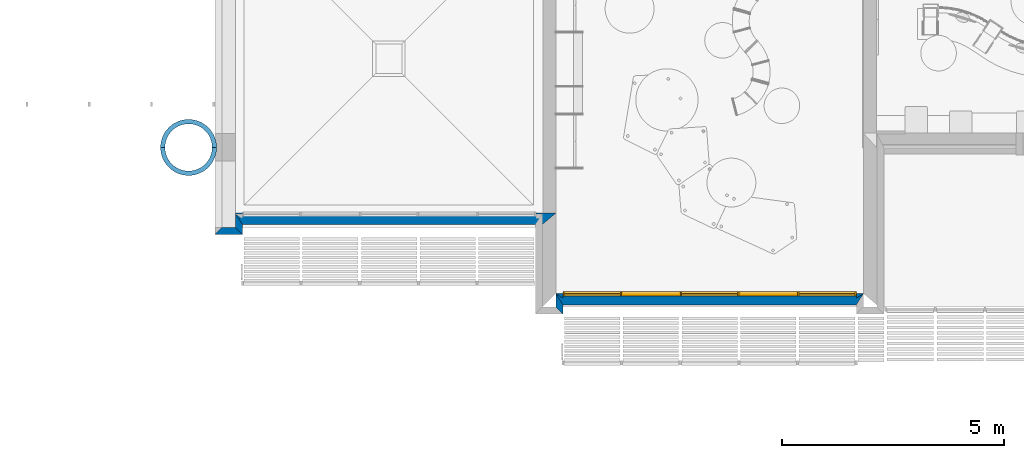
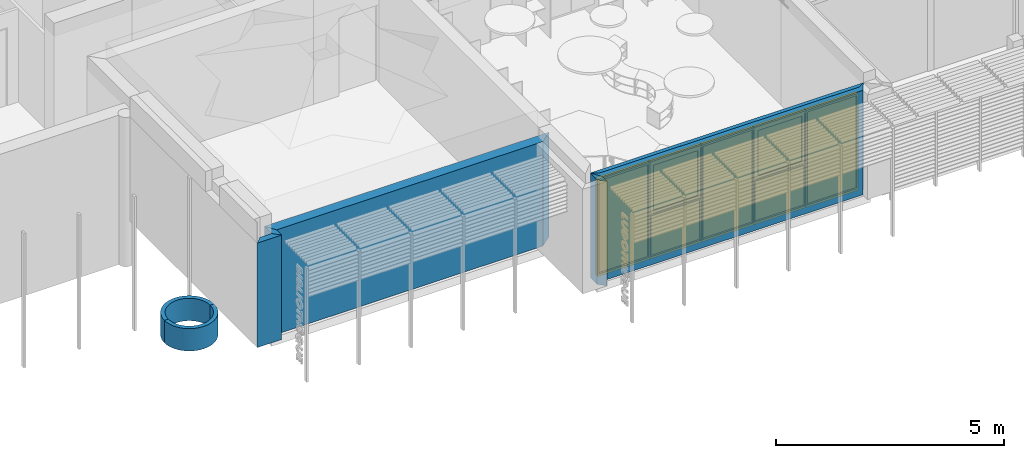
# One storey, part 19 of 64: 8 walls, 5 windows, 5 openings.
"""IFC2X3 building model written with IfcOpenShell, lengths in metres."""

from ifc_helpers import new_model, entity, si_unit, converted_unit, derived_unit, direction, frame, frame_2d, origin, place, context, subcontext, project, spatial, polyline, circle_curve, parameter, trimmed, segment, composite_curve, rectangle, outline, extrude, faceted_brep, source, transform, mapped, material, material_list, layer, layer_set, layer_usage, type_object, type_shapes, element, fill, save


model = new_model("IFC2X3")

# Units and contexts
model_context = context("Model", 3, precision=1e-05, world=origin(), true_north=direction((6.123031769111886e-17, 1.0)))
body_context = subcontext(model_context, "Body", "Model", "MODEL_VIEW")
ifc_project = project(units=[si_unit("LENGTHUNIT", "METRE"), si_unit("AREAUNIT", "SQUARE_METRE"), si_unit("VOLUMEUNIT", "CUBIC_METRE"), converted_unit("PLANEANGLEUNIT", "DEGREE", entity("IfcRatioMeasure", 0.017453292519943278), si_unit("PLANEANGLEUNIT", "RADIAN"), dimensions=[0, 0, 0, 0, 0, 0, 0]), si_unit("MASSUNIT", "GRAM", prefix="KILO"), derived_unit("MASSDENSITYUNIT", [(si_unit("MASSUNIT", "GRAM", prefix="KILO"), 1), (si_unit("LENGTHUNIT", "METRE"), -3)]), derived_unit("MOMENTOFINERTIAUNIT", [(si_unit("LENGTHUNIT", "METRE"), 4)]), si_unit("TIMEUNIT", "SECOND"), si_unit("FREQUENCYUNIT", "HERTZ"), si_unit("THERMODYNAMICTEMPERATUREUNIT", "DEGREE_CELSIUS"), derived_unit("THERMALTRANSMITTANCEUNIT", [(si_unit("MASSUNIT", "GRAM", prefix="KILO"), 1), (si_unit("THERMODYNAMICTEMPERATUREUNIT", "KELVIN"), -1), (si_unit("TIMEUNIT", "SECOND"), -3)]), derived_unit("THERMALCONDUCTANCEUNIT", [(si_unit("MASSUNIT", "GRAM", prefix="KILO"), 1), (si_unit("LENGTHUNIT", "METRE"), 1), (si_unit("THERMODYNAMICTEMPERATUREUNIT", "KELVIN"), -1), (si_unit("TIMEUNIT", "SECOND"), -3)]), derived_unit("VOLUMETRICFLOWRATEUNIT", [(si_unit("LENGTHUNIT", "METRE"), 3), (si_unit("TIMEUNIT", "SECOND"), -1)]), derived_unit("MASSFLOWRATEUNIT", [(si_unit("MASSUNIT", "GRAM", prefix="KILO"), 1), (si_unit("TIMEUNIT", "SECOND"), -1)]), derived_unit("ROTATIONALFREQUENCYUNIT", [(si_unit("TIMEUNIT", "SECOND"), -1)]), si_unit("ELECTRICCURRENTUNIT", "AMPERE"), si_unit("ELECTRICVOLTAGEUNIT", "VOLT"), si_unit("POWERUNIT", "WATT"), si_unit("FORCEUNIT", "NEWTON", prefix="KILO"), si_unit("ILLUMINANCEUNIT", "LUX"), si_unit("LUMINOUSFLUXUNIT", "LUMEN"), si_unit("LUMINOUSINTENSITYUNIT", "CANDELA"), derived_unit("USERDEFINED", [(si_unit("MASSUNIT", "GRAM", prefix="KILO"), -1), (si_unit("LENGTHUNIT", "METRE"), -2), (si_unit("TIMEUNIT", "SECOND"), 3), (si_unit("LUMINOUSFLUXUNIT", "LUMEN"), 1)]), derived_unit("USERDEFINED", [(si_unit("MASSUNIT", "GRAM", prefix="KILO"), 1), (si_unit("LENGTHUNIT", "METRE"), 3), (si_unit("TIMEUNIT", "SECOND"), -3), (si_unit("ELECTRICCURRENTUNIT", "AMPERE"), -2)]), derived_unit("USERDEFINED", [(si_unit("LENGTHUNIT", "METRE"), 2), (si_unit("TIMEUNIT", "SECOND"), -2)]), derived_unit("SOUNDPOWERUNIT", [(si_unit("MASSUNIT", "GRAM", prefix="KILO"), 1), (si_unit("LENGTHUNIT", "METRE"), 2), (si_unit("TIMEUNIT", "SECOND"), -3)]), derived_unit("SOUNDPRESSUREUNIT", [(si_unit("MASSUNIT", "GRAM", prefix="KILO"), 1), (si_unit("LENGTHUNIT", "METRE"), -1), (si_unit("TIMEUNIT", "SECOND"), -2)]), derived_unit("LINEARVELOCITYUNIT", [(si_unit("LENGTHUNIT", "METRE"), 1), (si_unit("TIMEUNIT", "SECOND"), -1)]), si_unit("PRESSUREUNIT", "PASCAL"), derived_unit("USERDEFINED", [(si_unit("LENGTHUNIT", "METRE"), -2), (si_unit("MASSUNIT", "GRAM", prefix="KILO"), 1), (si_unit("TIMEUNIT", "SECOND"), -2)]), derived_unit("LINEARFORCEUNIT", [(si_unit("MASSUNIT", "GRAM", prefix="KILO"), 1), (si_unit("LENGTHUNIT", "METRE"), 1), (si_unit("TIMEUNIT", "SECOND"), -2), (si_unit("LENGTHUNIT", "METRE"), -1)]), derived_unit("PLANARFORCEUNIT", [(si_unit("MASSUNIT", "GRAM", prefix="KILO"), 1), (si_unit("LENGTHUNIT", "METRE"), 1), (si_unit("TIMEUNIT", "SECOND"), -2), (si_unit("LENGTHUNIT", "METRE"), -2)]), derived_unit("SPECIFICHEATCAPACITYUNIT", [(si_unit("LENGTHUNIT", "METRE"), 2), (si_unit("TIMEUNIT", "SECOND"), -2), (si_unit("THERMODYNAMICTEMPERATUREUNIT", "KELVIN"), -1)]), derived_unit("VAPORPERMEABILITYUNIT", [(si_unit("TIMEUNIT", "SECOND"), 1), (si_unit("LENGTHUNIT", "METRE"), -1)]), derived_unit("DYNAMICVISCOSITYUNIT", [(si_unit("MASSUNIT", "GRAM", prefix="KILO"), 1), (si_unit("LENGTHUNIT", "METRE"), -1), (si_unit("TIMEUNIT", "SECOND"), -1)]), derived_unit("THERMALEXPANSIONCOEFFICIENTUNIT", [(si_unit("THERMODYNAMICTEMPERATUREUNIT", "KELVIN"), -1)])], contexts=[model_context])

# Site, building, storey
site_placement = place(None, origin())
site = spatial("IfcSite", under=ifc_project, at=site_placement, Name="Default", CompositionType="ELEMENT")
building_placement = place(site_placement, origin())
building = spatial("IfcBuilding", under=site, at=building_placement, CompositionType="ELEMENT")
storey_placement = place(building_placement, origin())
storey = spatial("IfcBuildingStorey", under=building, at=storey_placement, Name="REZ-DE-CHAUSSÉE", CompositionType="ELEMENT", Elevation=0.0)

# Walls
ifc_material_1 = material(Name="Enduit - Jaune nature")
ifc_layer_1 = layer(ifc_material_1, 0.02)
ifc_material_2 = material(Name="Isolation - Fibre de verre")
ifc_layer_2 = layer(ifc_material_2, 0.14)
ifc_layer_set_1 = layer_set([ifc_layer_1, ifc_layer_2], Name="Mur de base:ABA ITE 140 + enduit 160")
ifc_layer_usage_1 = layer_usage(ifc_layer_set_1, "AXIS2", "NEGATIVE", 0.08)
wall_type_1 = type_object("IfcWallType", Name="Mur de base:ABA ITE 140 + enduit 160", PredefinedType="STANDARD", material=ifc_layer_set_1)
wall_1_placement = place(storey_placement, frame((103.12075228, 5.87720948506, 0.0), z_axis=(0.0, 0.0, 1.0), x_axis=(-1.0, 0.0, 0.0)))
element("IfcWallStandardCase", 1, at=wall_1_placement, inside=storey, type_object=wall_type_1, material=ifc_layer_usage_1, Name="MurExt-018", ObjectType="Mur de base:ABA ITE 140 + enduit 160", context=body_context, shape_type="SweptSolid", body=[
    extrude(outline(polyline([(0.46000000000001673, -0.08000000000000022), (0.620000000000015, 0.08000000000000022), (0.0, 0.08000000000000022), (0.15999999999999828, -0.08000000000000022), (0.46000000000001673, -0.08000000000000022)])), origin(), (0.0, 0.0, 1.0), 2.8),
])
wall_2_placement = place(storey_placement, frame((103.04075228, 6.277209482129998, 0.0), z_axis=(0.0, 0.0, 1.0), x_axis=(0.0, -1.0, 0.0)))
element("IfcWallStandardCase", 2, at=wall_2_placement, inside=storey, type_object=wall_type_1, material=ifc_layer_usage_1, Name="MurExt-017", ObjectType="Mur de base:ABA ITE 140 + enduit 160", context=body_context, shape_type="SweptSolid", body=[
    extrude(outline(polyline([(0.3199999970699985, -0.07999999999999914), (0.47999999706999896, 0.07999999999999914), (0.24999999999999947, 0.07999999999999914), (0.0, -0.07999999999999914), (0.3199999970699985, -0.07999999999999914)])), origin(), (0.0, 0.0, 1.0), 2.8),
])
wall_3_placement = place(storey_placement, frame((110.25075228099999, 4.4672094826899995, 0.0), z_axis=(0.0, 0.0, 1.0), x_axis=(0.0, -1.0, 0.0)))
element("IfcWallStandardCase", 3, at=wall_3_placement, inside=storey, type_object=wall_type_1, material=ifc_layer_usage_1, Name="MurExt-015", ObjectType="Mur de base:ABA ITE 140 + enduit 160", context=body_context, shape_type="SweptSolid", body=[
    extrude(outline(polyline([(0.2999999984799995, -0.07999999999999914), (0.4599999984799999, 0.07999999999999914), (0.24999999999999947, 0.07999999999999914), (0.0, -0.07999999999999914), (0.2999999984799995, -0.07999999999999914)])), origin(), (0.0, 0.0, 1.0), 2.8),
])
ifc_material_3 = material(Name="Bois - Pin granuleux horizontal")
ifc_layer_3 = layer(ifc_material_3, 0.031999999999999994)
ifc_material_4 = material(Name="Air - Vide d'air")
ifc_layer_4 = layer(ifc_material_4, 0.041)
ifc_material_5 = material(Name="Bois - Panneaux de particules")
ifc_layer_5 = layer(ifc_material_5, 0.022)
ifc_layer_6 = layer(ifc_material_2, 0.12)
ifc_layer_7 = layer(ifc_material_5, 0.022)
ifc_material_6 = material(Name="Plâtre - Plaques de plâtre")
ifc_layer_8 = layer(ifc_material_6, 0.013)
ifc_layer_set_2 = layer_set([ifc_layer_3, ifc_layer_4, ifc_layer_5, ifc_layer_6, ifc_layer_7, ifc_layer_8], Name="Mur de base:ABA MOB bardage 250")
ifc_layer_usage_2 = layer_usage(ifc_layer_set_2, "AXIS2", "NEGATIVE", 0.12499999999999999)
wall_type_2 = type_object("IfcWallType", Name="Mur de base:ABA MOB bardage 250", PredefinedType="STANDARD", material=ifc_layer_set_2)
wall_4_placement = place(storey_placement, frame((117.09075228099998, 4.3422094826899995, 0.0), z_axis=(0.0, 0.0, 1.0), x_axis=(-1.0, 0.0, 0.0)))
element("IfcWallStandardCase", 4, at=wall_4_placement, inside=storey, type_object=wall_type_2, material=ifc_layer_usage_2, Name="MurExt-003", ObjectType="Mur de base:ABA MOB bardage 250", context=body_context, shape_type="SweptSolid", body=[
    extrude(outline(polyline([(6.919999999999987, -0.12500000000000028), (6.759999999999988, 0.12499999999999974), (0.15999999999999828, 0.12499999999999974), (0.0, -0.12500000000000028), (6.919999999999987, -0.12500000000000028)])), origin(), (0.0, 0.0, 1.0), 2.8),
])
wall_5_placement = place(storey_placement, frame((110.17075228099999, 6.152209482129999, 0.0), z_axis=(0.0, 0.0, 1.0), x_axis=(-1.0, 0.0, 0.0)))
element("IfcWallStandardCase", 5, at=wall_5_placement, inside=storey, type_object=wall_type_2, material=ifc_layer_usage_2, Name="MurExt-004", ObjectType="Mur de base:ABA MOB bardage 250", context=body_context, shape_type="SweptSolid", body=[
    extrude(outline(polyline([(7.210000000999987, -0.12499999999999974), (7.050000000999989, 0.12499999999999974), (0.3000000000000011, 0.12499999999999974), (0.0, -0.12499999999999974), (0.29000000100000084, -0.12499999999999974), (7.210000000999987, -0.12499999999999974)])), origin(), (0.0, 0.0, 1.0), 2.8),
])
ifc_material_7 = material(Name="Appareillage - Pierre taillé")
ifc_layer_9 = layer(ifc_material_7, 0.0992125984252)
ifc_layer_set_3 = layer_set([ifc_layer_9], Name="Mur de base:Struct. - Pierre 99")
ifc_layer_usage_3 = layer_usage(ifc_layer_set_3, "AXIS2", "POSITIVE", -0.0496062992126)
wall_type_3 = type_object("IfcWallType", Name="Mur de base:Struct. - Pierre 99", PredefinedType="STANDARD", material=ifc_layer_set_3)
wall_6_placement = place(storey_placement, frame((102.49114598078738, 7.757209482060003, -0.63), z_axis=(0.0, 0.0, 1.0), x_axis=(-1.0, 0.0, 0.0)))
element("IfcWallStandardCase", 6, at=wall_6_placement, inside=storey, type_object=wall_type_3, material=ifc_layer_usage_3, Name="MurExt-004", ObjectType="Mur de base:Struct. - Pierre 99", context=body_context, shape_type="SweptSolid", body=[
    extrude(outline(composite_curve([segment(trimmed(circle_curve(frame_2d((0.580393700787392, 0.0), x_axis=(1.0, 0.0)), 0.63), [parameter(0.0)], [parameter(180.00000000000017)], True, "PARAMETER"), True, "CONTINUOUS"), segment(polyline([(-0.049606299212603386, 0.0), (0.04960629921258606, 0.0)]), True, "CONTINUOUS"), segment(trimmed(circle_curve(frame_2d((0.580393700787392, 0.0), x_axis=(1.0, 0.0)), 0.5307874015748), [parameter(0.0)], [parameter(180.00000000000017)], True, "PARAMETER"), False, "CONTINUOUS"), segment(polyline([(1.111181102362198, 0.0), (1.2103937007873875, 0.0)]), True, "CONTINUOUS")], self_intersect=False)), origin(), (0.0, 0.0, 1.0), 0.5999999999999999),
])
wall_7_placement = place(storey_placement, frame((101.33035857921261, 7.757209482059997, -0.63)))
element("IfcWallStandardCase", 7, at=wall_7_placement, inside=storey, type_object=wall_type_3, material=ifc_layer_usage_3, Name="MurExt-003", ObjectType="Mur de base:Struct. - Pierre 99", context=body_context, shape_type="SweptSolid", body=[
    extrude(outline(composite_curve([segment(trimmed(circle_curve(frame_2d((0.580393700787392, 0.0), x_axis=(1.0, 0.0)), 0.63), [parameter(0.0)], [parameter(180.00000000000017)], True, "PARAMETER"), True, "CONTINUOUS"), segment(polyline([(-0.049606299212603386, 0.0), (0.04960629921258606, 0.0)]), True, "CONTINUOUS"), segment(trimmed(circle_curve(frame_2d((0.580393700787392, 0.0), x_axis=(1.0, 0.0)), 0.5307874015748), [parameter(0.0)], [parameter(180.00000000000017)], True, "PARAMETER"), False, "CONTINUOUS"), segment(polyline([(1.111181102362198, 0.0), (1.2103937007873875, 0.0)]), True, "CONTINUOUS")], self_intersect=False)), origin(), (0.0, 0.0, 1.0), 0.5999999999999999),
])

# Wall, openings, windows
ifc_layer_10 = layer(ifc_material_2, 0.1)
ifc_layer_set_4 = layer_set([ifc_layer_10], Name="Mur de base:Isolation - Laine de verre 100")
ifc_layer_usage_4 = layer_usage(ifc_layer_set_4, "AXIS2", "NEGATIVE", 0.05)
wall_type_4 = type_object("IfcWallType", Name="Mur de base:Isolation - Laine de verre 100", PredefinedType="STANDARD", material=ifc_layer_set_4)
wall_8_placement = place(storey_placement, frame((117.09075228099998, 4.41720948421, 0.0), z_axis=(0.0, 0.0, 1.0), x_axis=(-1.0, 0.0, 0.0)))
wall_8 = element("IfcWallStandardCase", 8, at=wall_8_placement, inside=storey, type_object=wall_type_4, material=ifc_layer_usage_4, Name="MurExt-027", ObjectType="Mur de base:Isolation - Laine de verre 100", context=body_context, shape_type="SweptSolid", body=[
    extrude(outline(polyline([(0.0, -0.05), (6.919999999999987, -0.05), (6.759999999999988, 0.05), (0.15999999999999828, 0.05), (0.0, -0.05)])), origin(), (0.0, 0.0, 1.0), 2.8),
])
opening_1_placement = place(wall_8_placement, frame((117.09075228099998, 4.41720948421, 0.0), z_axis=(0.0, 0.0, 1.0), x_axis=(-1.0, 0.0, 0.0)))
opening_1 = element("IfcOpeningElement", 9, at=opening_1_placement, cuts=wall_8, Name="MurExt-027", ObjectType="Opening", context=body_context, shape_type="SweptSolid", body=[
    extrude(rectangle(XDim=2.6, YDim=1.3199999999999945, at=frame_2d((0.0, 8.659739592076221e-15), x_axis=(1.0, 0.0))), frame((113.63075228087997, 4.518209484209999, 1.3), z_axis=(0.0, -1.0, 0.0), x_axis=(0.0, 0.0, -1.0)), (0.0, 0.0, 1.0), 0.20199999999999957),
])
opening_2_placement = place(wall_8_placement, frame((117.09075228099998, 4.41720948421, 0.0), z_axis=(0.0, 0.0, 1.0), x_axis=(-1.0, 0.0, 0.0)))
opening_2 = element("IfcOpeningElement", 10, at=opening_2_placement, cuts=wall_8, Name="MurExt-027", ObjectType="Opening", context=body_context, shape_type="SweptSolid", body=[
    extrude(rectangle(XDim=2.6, YDim=1.3199999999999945, at=frame_2d((8.659739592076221e-15, 0.0), x_axis=(0.0, 1.0))), frame((114.95075228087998, 4.518209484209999, 1.3), z_axis=(0.0, -1.0, 0.0), x_axis=(1.0, 0.0, 0.0)), (0.0, 0.0, 1.0), 0.20199999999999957),
])
opening_3_placement = place(wall_8_placement, frame((117.09075228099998, 4.41720948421, 0.0), z_axis=(0.0, 0.0, 1.0), x_axis=(-1.0, 0.0, 0.0)))
opening_3 = element("IfcOpeningElement", 11, at=opening_3_placement, cuts=wall_8, Name="MurExt-027", ObjectType="Opening", context=body_context, shape_type="SweptSolid", body=[
    extrude(rectangle(XDim=2.6, YDim=1.3199999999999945, at=frame_2d((0.0, 8.659739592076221e-15), x_axis=(1.0, 0.0))), frame((116.27075228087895, 4.518209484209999, 1.3), z_axis=(0.0, -1.0, 0.0), x_axis=(0.0, 0.0, -1.0)), (0.0, 0.0, 1.0), 0.20199999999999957),
])
opening_4_placement = place(wall_8_placement, frame((117.09075228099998, 4.41720948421, 0.0), z_axis=(0.0, 0.0, 1.0), x_axis=(-1.0, 0.0, 0.0)))
opening_4 = element("IfcOpeningElement", 12, at=opening_4_placement, cuts=wall_8, Name="MurExt-027", ObjectType="Opening", context=body_context, shape_type="SweptSolid", body=[
    extrude(rectangle(XDim=2.6, YDim=1.3199999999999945, at=frame_2d((0.0, 8.659739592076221e-15), x_axis=(1.0, 0.0))), frame((112.31075228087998, 4.518209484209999, 1.3), z_axis=(0.0, -1.0, 0.0), x_axis=(0.0, 0.0, -1.0)), (0.0, 0.0, 1.0), 0.20199999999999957),
])
opening_5_placement = place(wall_8_placement, frame((117.09075228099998, 4.41720948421, 0.0), z_axis=(0.0, 0.0, 1.0), x_axis=(-1.0, 0.0, 0.0)))
opening_5 = element("IfcOpeningElement", 13, at=opening_5_placement, cuts=wall_8, Name="MurExt-027", ObjectType="Opening", context=body_context, shape_type="SweptSolid", body=[
    extrude(rectangle(XDim=2.6, YDim=1.3199999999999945, at=frame_2d((-8.659739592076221e-15, 0.0), x_axis=(0.0, 1.0))), frame((110.99075228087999, 4.518209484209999, 1.3), z_axis=(0.0, -1.0, 0.0), x_axis=(1.0, 0.0, 0.0)), (0.0, 0.0, 1.0), 0.20199999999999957),
])
ifc_material_8 = material(Name="Transp. - Verre clair (rapide)")
ifc_material_9 = material(Name="Peinture - Anthracite")
ifc_material_list = material_list([ifc_material_8, ifc_material_9])
window_style_1 = type_object("IfcWindowStyle", Name="Fen-004", ConstructionType="NOTDEFINED", OperationType="NOTDEFINED", ParameterTakesPrecedence=False, Sizeable=False, material=ifc_material_list)
shared_shape_1 = source(origin(), body_context, "Body", "SweptSolid", [
    extrude(rectangle(XDim=1.26, YDim=0.010000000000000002, at=frame_2d((0.0, -4.336808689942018e-18), x_axis=(1.0, 0.0))), frame((0.6600000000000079, -0.15099999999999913, 0.0601)), (0.0, 0.0, 1.0), 2.4899),
    extrude(outline(polyline([(-1.3, -0.6599999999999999), (1.3, -0.6599999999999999), (1.3, 0.6599999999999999), (-1.3, 0.6599999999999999), (-1.3, -0.6599999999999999)]), holes=[polyline([(1.2400000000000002, 0.63), (1.2400000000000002, -0.63), (-1.2499999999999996, -0.63), (-1.2499999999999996, 0.63), (1.2400000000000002, 0.63)])]), frame((0.6600000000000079, -0.20099999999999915, 1.3), z_axis=(0.0, 1.0, 0.0), x_axis=(0.0, 0.0, -1.0)), (0.0, 0.0, 1.0), 0.1),
])
type_shapes(window_style_1, [shared_shape_1])
window_1_placement = place(opening_1_placement, frame((114.29075228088, 4.31620948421, 0.0), z_axis=(0.0, 0.0, 1.0), x_axis=(-1.0, 0.0, 0.0)))
window_1 = element("IfcWindow", 14, at=window_1_placement, inside=storey, type_object=window_style_1, material=ifc_material_list, Name="Fen-004 54853:Fen-004 54853", ObjectType="Fen-004 54853:Fen-004 54853", OverallHeight=2.6, OverallWidth=1.3199999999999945, context=body_context, shape_type="MappedRepresentation", body=[
    mapped(shared_shape_1, transform((0.0, 0.0, 0.0), scale=1.0)),
])
fill(opening_1, window_1)
window_2_placement = place(opening_3_placement, frame((116.93075228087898, 4.31620948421, 0.0), z_axis=(0.0, 0.0, 1.0), x_axis=(-1.0, 0.0, 0.0)))
window_2 = element("IfcWindow", 15, at=window_2_placement, inside=storey, type_object=window_style_1, material=ifc_material_list, Name="Fen-004 54853:Fen-004 54853", ObjectType="Fen-004 54853:Fen-004 54853", OverallHeight=2.6, OverallWidth=1.3199999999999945, context=body_context, shape_type="MappedRepresentation", body=[
    mapped(shared_shape_1, transform((0.0, 0.0, 0.0), scale=1.0)),
])
fill(opening_3, window_2)
window_style_2 = type_object("IfcWindowStyle", Name="Fen-004", ConstructionType="NOTDEFINED", OperationType="NOTDEFINED", ParameterTakesPrecedence=False, Sizeable=False, material=ifc_material_8)
shared_shape_2 = source(origin(), body_context, "Body", "Brep", [
    faceted_brep([(0.0, -0.10100000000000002, 2.6), (1.3199999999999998, -0.10100000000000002, 2.6), (1.3199999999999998, -0.10100000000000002, 0.0), (0.0, -0.10100000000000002, 0.0), (1.29, -0.10100000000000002, 1.1999999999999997), (1.29, -0.10100000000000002, 2.55), (0.029999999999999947, -0.10100000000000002, 2.55), (0.029999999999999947, -0.10100000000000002, 1.1999999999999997), (1.29, -0.10100000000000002, 1.15), (0.029999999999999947, -0.10100000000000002, 1.15), (0.029999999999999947, -0.10100000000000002, 0.059999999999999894), (1.29, -0.10100000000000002, 0.059999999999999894), (0.0, -0.201, 2.6), (1.3199999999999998, -0.201, 2.6), (1.3199999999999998, -0.201, 0.0), (0.0, -0.201, 0.0), (1.29, -0.201, 1.1999999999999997), (1.29, -0.201, 2.55), (0.029999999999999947, -0.201, 2.55), (0.029999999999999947, -0.201, 1.1999999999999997), (1.29, -0.201, 1.15), (0.029999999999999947, -0.201, 1.15), (0.029999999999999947, -0.201, 0.05999999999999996), (1.29, -0.201, 0.06), (1.29, -0.161, 2.55), (0.029999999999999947, -0.161, 2.55), (0.029999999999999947, -0.161, 1.1999999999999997), (1.29, -0.161, 1.1999999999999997), (1.22, -0.161, 2.48), (1.22, -0.161, 1.2699999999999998), (0.09999999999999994, -0.161, 1.2699999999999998), (0.09999999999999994, -0.161, 2.48), (1.29, -0.11100000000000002, 2.55), (0.029999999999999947, -0.11100000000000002, 2.55), (0.029999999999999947, -0.11100000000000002, 1.1999999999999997), (1.29, -0.11100000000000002, 1.1999999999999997), (1.22, -0.11100000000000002, 2.48), (1.22, -0.11100000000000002, 1.2699999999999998), (0.09999999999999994, -0.11100000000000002, 1.2699999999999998), (0.09999999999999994, -0.11100000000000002, 2.48), (0.029999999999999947, -0.136, 2.55), (0.029999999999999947, -0.136, 1.1999999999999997), (1.29, -0.136, 2.55), (1.29, -0.136, 1.1999999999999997), (0.09999999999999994, -0.14100000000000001, 1.2699999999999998), (0.09999999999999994, -0.131, 1.2699999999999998), (1.22, -0.131, 1.2699999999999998), (1.22, -0.14100000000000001, 1.2699999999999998), (0.09999999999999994, -0.14100000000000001, 2.48), (0.09999999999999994, -0.131, 2.48), (1.22, -0.131, 2.48), (1.22, -0.14100000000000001, 2.48), (0.029999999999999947, -0.156, 0.0601), (0.029999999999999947, -0.14600000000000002, 0.0601), (1.29, -0.14600000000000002, 0.0601), (1.29, -0.156, 0.0601), (0.029999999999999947, -0.156, 1.15), (0.029999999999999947, -0.14600000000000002, 1.15), (1.29, -0.14600000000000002, 1.15), (1.29, -0.156, 1.15)], [[[0, 1, 2, 3], [4, 5, 6, 7], [8, 9, 10, 11]], [[1, 0, 12, 13]], [[2, 1, 13, 14]], [[3, 2, 14, 15]], [[0, 3, 15, 12]], [[16, 17, 5, 4]], [[6, 5, 17, 18]], [[7, 6, 18, 19]], [[4, 7, 19, 16]], [[20, 21, 9, 8]], [[21, 22, 10, 9]], [[11, 10, 22, 23]], [[8, 11, 23, 20]], [[14, 13, 12, 15], [16, 19, 18, 17], [20, 23, 22, 21]], [[24, 25, 26, 27], [28, 29, 30, 31]], [[24, 32, 33, 25]], [[33, 34, 26, 25]], [[34, 35, 27, 26]], [[27, 35, 32, 24]], [[28, 36, 37, 29]], [[37, 38, 30, 29]], [[38, 39, 31, 30]], [[31, 39, 36, 28]], [[33, 32, 35, 34], [37, 36, 39, 38]], [[26, 25, 40, 41]], [[27, 24, 42, 43]], [[26, 27, 43, 41]], [[25, 24, 42, 40]], [[41, 40, 33, 34]], [[43, 42, 32, 35]], [[41, 43, 35, 34]], [[40, 42, 32, 33]], [[44, 45, 46, 47]], [[48, 49, 45, 44]], [[45, 49, 50, 46]], [[47, 46, 50, 51]], [[44, 47, 51, 48]], [[51, 50, 49, 48]], [[52, 53, 54, 55]], [[56, 57, 53, 52]], [[53, 57, 58, 54]], [[55, 54, 58, 59]], [[52, 55, 59, 56]], [[59, 58, 57, 56]]]),
])
type_shapes(window_style_2, [shared_shape_2])
window_3_placement = place(opening_2_placement, frame((115.61075228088, 4.31620948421, 0.0), z_axis=(0.0, 0.0, 1.0), x_axis=(-1.0, 0.0, 0.0)))
window_3 = element("IfcWindow", 16, at=window_3_placement, inside=storey, type_object=window_style_2, material=ifc_material_8, Name="Fen-004 55397:Fen-004 55397", ObjectType="Fen-004 55397:Fen-004 55397", OverallHeight=2.6, OverallWidth=1.3199999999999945, context=body_context, shape_type="MappedRepresentation", body=[
    mapped(shared_shape_2, transform((0.0, 0.0, 0.0), scale=1.0)),
])
fill(opening_2, window_3)
window_style_3 = type_object("IfcWindowStyle", Name="Fen-004", ConstructionType="NOTDEFINED", OperationType="NOTDEFINED", ParameterTakesPrecedence=False, Sizeable=False, material=ifc_material_8)
shared_shape_3 = source(origin(), body_context, "Body", "Brep", [
    faceted_brep([(1.3199999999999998, -0.10100000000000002, 2.6), (1.3199999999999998, -0.10100000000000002, 0.0), (0.0, -0.10100000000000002, 0.0), (0.0, -0.10100000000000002, 2.6), (0.029999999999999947, -0.10100000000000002, 1.1999999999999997), (1.29, -0.10100000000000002, 1.1999999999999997), (1.29, -0.10100000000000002, 2.55), (0.029999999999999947, -0.10100000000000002, 2.55), (0.029999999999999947, -0.10100000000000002, 1.15), (0.029999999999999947, -0.10100000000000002, 0.059999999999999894), (1.29, -0.10100000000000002, 0.059999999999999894), (1.29, -0.10100000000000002, 1.15), (1.3199999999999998, -0.201, 2.6), (1.3199999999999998, -0.201, 0.0), (0.0, -0.201, 0.0), (0.0, -0.201, 2.6), (0.029999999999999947, -0.201, 1.1999999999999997), (1.29, -0.201, 1.1999999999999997), (1.29, -0.201, 2.55), (0.029999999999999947, -0.201, 2.55), (0.029999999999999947, -0.201, 1.15), (0.029999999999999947, -0.201, 0.06000000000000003), (1.29, -0.201, 0.06), (1.29, -0.201, 1.15), (0.029999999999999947, -0.161, 2.55), (0.029999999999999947, -0.161, 1.1999999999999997), (1.29, -0.161, 1.1999999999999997), (1.29, -0.161, 2.55), (0.09999999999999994, -0.161, 2.48), (1.22, -0.161, 2.48), (1.22, -0.161, 1.2699999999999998), (0.09999999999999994, -0.161, 1.2699999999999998), (0.029999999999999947, -0.11100000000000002, 2.55), (0.029999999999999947, -0.11100000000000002, 1.1999999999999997), (1.29, -0.11100000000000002, 1.1999999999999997), (1.29, -0.11100000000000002, 2.55), (0.09999999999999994, -0.11100000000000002, 2.48), (1.22, -0.11100000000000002, 2.48), (1.22, -0.11100000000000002, 1.2699999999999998), (0.09999999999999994, -0.11100000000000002, 1.2699999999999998), (1.29, -0.136, 1.1999999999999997), (1.29, -0.136, 2.55), (0.029999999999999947, -0.136, 1.1999999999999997), (0.029999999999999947, -0.136, 2.55), (1.22, -0.14100000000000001, 1.2699999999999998), (0.09999999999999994, -0.14100000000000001, 1.2699999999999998), (0.09999999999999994, -0.131, 1.2699999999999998), (1.22, -0.131, 1.2699999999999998), (1.22, -0.14100000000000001, 2.48), (0.09999999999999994, -0.14100000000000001, 2.48), (0.09999999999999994, -0.131, 2.48), (1.22, -0.131, 2.48), (1.29, -0.156, 0.0601), (0.029999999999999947, -0.156, 0.0601), (0.029999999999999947, -0.14600000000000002, 0.0601), (1.29, -0.14600000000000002, 0.0601), (1.29, -0.156, 1.15), (0.029999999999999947, -0.156, 1.15), (0.029999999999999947, -0.14600000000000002, 1.15), (1.29, -0.14600000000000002, 1.15)], [[[0, 1, 2, 3], [4, 5, 6, 7], [8, 9, 10, 11]], [[0, 12, 13, 1]], [[1, 13, 14, 2]], [[2, 14, 15, 3]], [[3, 15, 12, 0]], [[4, 16, 17, 5]], [[5, 17, 18, 6]], [[6, 18, 19, 7]], [[16, 4, 7, 19]], [[8, 20, 21, 9]], [[9, 21, 22, 10]], [[23, 11, 10, 22]], [[20, 8, 11, 23]], [[14, 13, 12, 15], [16, 19, 18, 17], [20, 23, 22, 21]], [[24, 25, 26, 27], [28, 29, 30, 31]], [[25, 24, 32, 33]], [[34, 26, 25, 33]], [[35, 27, 26, 34]], [[24, 27, 35, 32]], [[29, 28, 36, 37]], [[38, 30, 29, 37]], [[39, 31, 30, 38]], [[28, 31, 39, 36]], [[35, 34, 33, 32], [39, 38, 37, 36]], [[26, 40, 41, 27]], [[25, 42, 43, 24]], [[26, 40, 42, 25]], [[27, 41, 43, 24]], [[40, 34, 35, 41]], [[42, 33, 32, 43]], [[40, 34, 33, 42]], [[41, 35, 32, 43]], [[44, 45, 46, 47]], [[44, 48, 49, 45]], [[45, 49, 50, 46]], [[47, 46, 50, 51]], [[48, 44, 47, 51]], [[49, 48, 51, 50]], [[52, 53, 54, 55]], [[52, 56, 57, 53]], [[53, 57, 58, 54]], [[55, 54, 58, 59]], [[56, 52, 55, 59]], [[57, 56, 59, 58]]]),
])
type_shapes(window_style_3, [shared_shape_3])
window_4_placement = place(opening_4_placement, frame((112.97075228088, 4.31620948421, 0.0), z_axis=(0.0, 0.0, 1.0), x_axis=(-1.0, 0.0, 0.0)))
window_4 = element("IfcWindow", 17, at=window_4_placement, inside=storey, type_object=window_style_3, material=ifc_material_8, Name="Fen-004 55975:Fen-004 55975", ObjectType="Fen-004 55975:Fen-004 55975", OverallHeight=2.6, OverallWidth=1.3199999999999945, context=body_context, shape_type="MappedRepresentation", body=[
    mapped(shared_shape_3, transform((0.0, 0.0, 0.0), scale=1.0)),
])
fill(opening_4, window_4)
window_style_4 = type_object("IfcWindowStyle", Name="Fen-004", ConstructionType="NOTDEFINED", OperationType="NOTDEFINED", ParameterTakesPrecedence=False, Sizeable=False, material=ifc_material_list)
shared_shape_4 = source(origin(), body_context, "Body", "SweptSolid", [
    extrude(rectangle(XDim=0.010000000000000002, YDim=1.26, at=frame_2d((-4.336808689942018e-18, 0.0), x_axis=(1.0, 0.0))), frame((0.6600000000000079, -0.15099999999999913, 0.0601), z_axis=(0.0, 0.0, 1.0), x_axis=(0.0, -1.0, 0.0)), (0.0, 0.0, 1.0), 2.4899),
    extrude(outline(polyline([(-0.6599999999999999, -1.3), (0.6599999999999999, -1.3), (0.6599999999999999, 1.3), (-0.6599999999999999, 1.3), (-0.6599999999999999, -1.3)]), holes=[polyline([(0.63, 1.2499999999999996), (0.63, -1.2400000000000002), (-0.63, -1.2400000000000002), (-0.63, 1.2499999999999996), (0.63, 1.2499999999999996)])]), frame((0.6600000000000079, -0.20099999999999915, 1.3), z_axis=(0.0, 1.0, 0.0), x_axis=(-1.0, 0.0, 0.0)), (0.0, 0.0, 1.0), 0.1),
])
type_shapes(window_style_4, [shared_shape_4])
window_5_placement = place(opening_5_placement, frame((111.65075228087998, 4.31620948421, 0.0), z_axis=(0.0, 0.0, 1.0), x_axis=(-1.0, 0.0, 0.0)))
window_5 = element("IfcWindow", 18, at=window_5_placement, inside=storey, type_object=window_style_4, material=ifc_material_list, Name="Fen-004 56171:Fen-004 56171", ObjectType="Fen-004 56171:Fen-004 56171", OverallHeight=2.6, OverallWidth=1.3199999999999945, context=body_context, shape_type="MappedRepresentation", body=[
    mapped(shared_shape_4, transform((0.0, 0.0, 0.0), scale=1.0)),
])
fill(opening_5, window_5)

save(model, "model.ifc")
